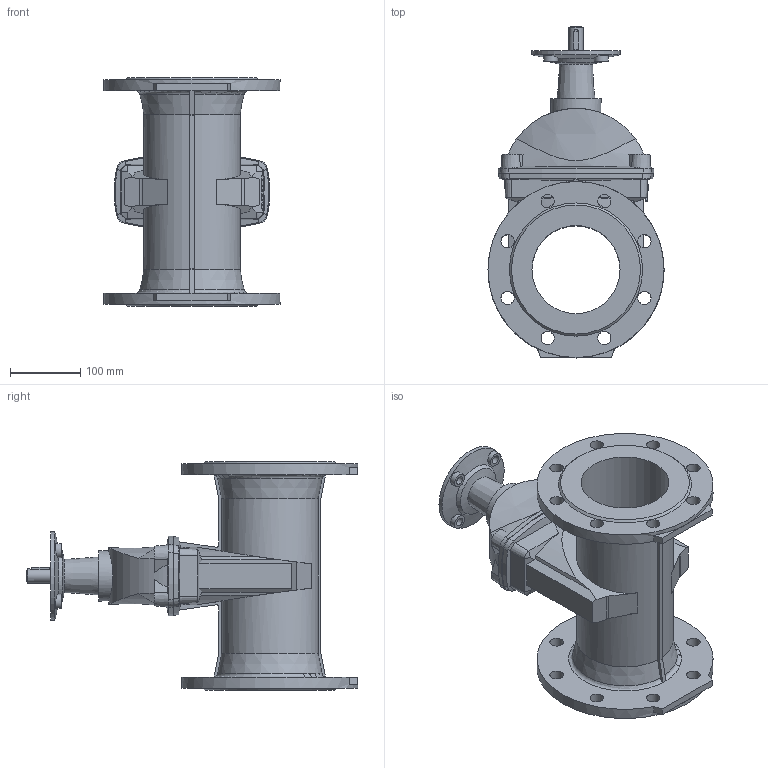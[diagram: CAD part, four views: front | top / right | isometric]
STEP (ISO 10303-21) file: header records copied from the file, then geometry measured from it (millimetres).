
FILE_DESCRIPTION (( 'STEP AP203' ), '1' );
FILE_NAME ('O_15_72_DN125_X1XXX099_AA0.step', '2017-03-10T08:53:54', ( 'Windows User' ), ( 'AVK' ), 'SwSTEP 2.0', 'SolidWorks 2012', '' );
FILE_SCHEMA (( 'CONFIG_CONTROL_DESIGN' ));
Length unit declared in the file: inch
Products named in the file (1): O_15_72_DN125_X1XXX099_AA0
Bounding box: 250 x 471 x 325 mm (x, y, z)
Volume: 4948551 mm3; surface area: 579259.5 mm2
Topology: 1 solids, 1 shells, 286 faces, 804 edges, 529 vertices
Faces by surface type: plane 138, cone 57, cylinder 48, bspline 39, torus 2, sphere 2
Full cylindrical faces by diameter (mm): 12 x4, 19 x16, 20 x5, 71 x1, 125 x2, 250 x2
Entity records: 10620 total; most frequent: CARTESIAN_POINT 3704, ORIENTED_EDGE 1468, DIRECTION 1287, EDGE_CURVE 734, VERTEX_POINT 502, AXIS2_PLACEMENT_3D 444, VECTOR 399, LINE 399
